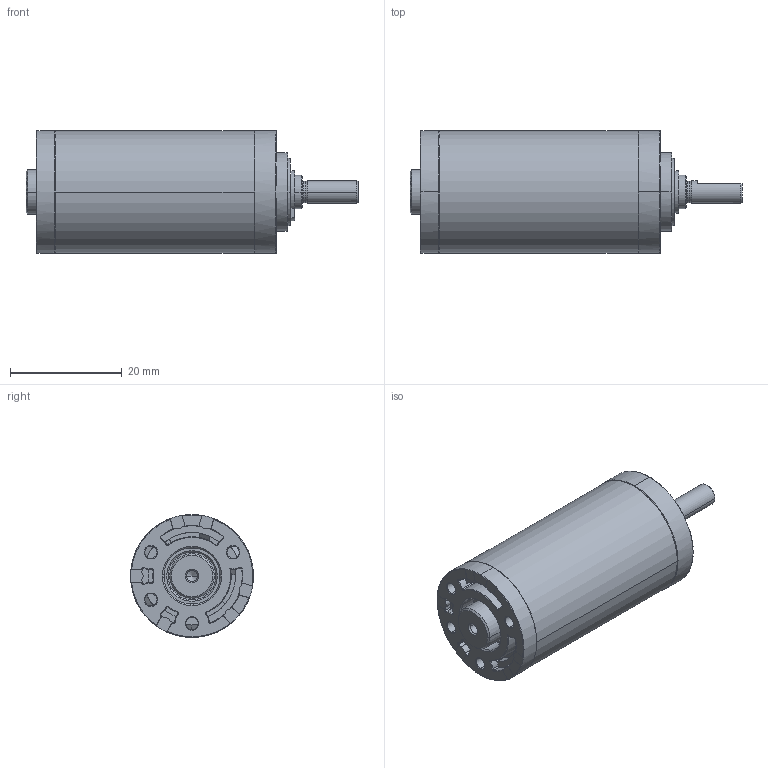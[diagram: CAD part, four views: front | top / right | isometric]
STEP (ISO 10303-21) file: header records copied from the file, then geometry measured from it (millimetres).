
FILE_DESCRIPTION((''),'2;1');
FILE_NAME('IMS22_ECO_MAX_3_STAGE_ASM','2023-07-27T13:27:21',('mhummel'),(''),'CREO PARAMETRIC BY PTC INC, 2020184','CREO PARAMETRIC BY PTC INC, 2020184','');
FILE_SCHEMA(('AUTOMOTIVE_DESIGN { 1 0 10303 214 1 1 1 1 }'));
Length unit declared in the file: millimetre
Products named in the file (12): IMS22_ECO_MAX_BEARING_FLANGE; IMS22_ECO_MAX_SINTERED_BEARING; IMS22_ECO_MAX_RING_GEAR_3_STAGE; IMS22_ECO_MAX_MOTOR_FLANGE; IMS22_ECO_MAX_SHAFT_RAW_AF0; IMS22_ECO_MAX_SHAFT_ASM; IMS22_ECO_MAX_SHIM_RING; IMS22_ECO_MAX_RETAINING_RING_A; IMS22_ECO_MAX_THRUST_WASHER; IMS22_ECO_MAX_MO_PINION_LONG; IMS22_ECO_MAX_MOT_PINION_SHORT; IMS22_ECO_MAX_3_STAGE_ASM
Assembly tree (12 placements, depth 3):
  IMS22_ECO_MAX_3_STAGE_ASM
    IMS22_ECO_MAX_BEARING_FLANGE
    IMS22_ECO_MAX_SINTERED_BEARING  x2
    IMS22_ECO_MAX_RING_GEAR_3_STAGE
    IMS22_ECO_MAX_MOTOR_FLANGE
    IMS22_ECO_MAX_SHAFT_ASM
      IMS22_ECO_MAX_SHAFT_RAW_AF0
    IMS22_ECO_MAX_SHIM_RING
    IMS22_ECO_MAX_RETAINING_RING_A
    IMS22_ECO_MAX_THRUST_WASHER
    IMS22_ECO_MAX_MO_PINION_LONG
    IMS22_ECO_MAX_MOT_PINION_SHORT
Bounding box: 59.45 x 22 x 22 mm (x, y, z)
Volume: 8339.8 mm3; surface area: 11351.1 mm2
Topology: 11 solids, 11 shells, 883 faces, 2113 edges, 1262 vertices
Faces by surface type: cylinder 274, torus 253, plane 175, bspline 90, cone 67, sphere 24
Entity records: 36729 total; most frequent: CARTESIAN_POINT 9849, DIRECTION 4514, ORIENTED_EDGE 4138, PRESENTATION_STYLE_ASSIGNMENT 2084, STYLED_ITEM 2084, CURVE_STYLE 2069, EDGE_CURVE 2069, AXIS2_PLACEMENT_3D 2025
